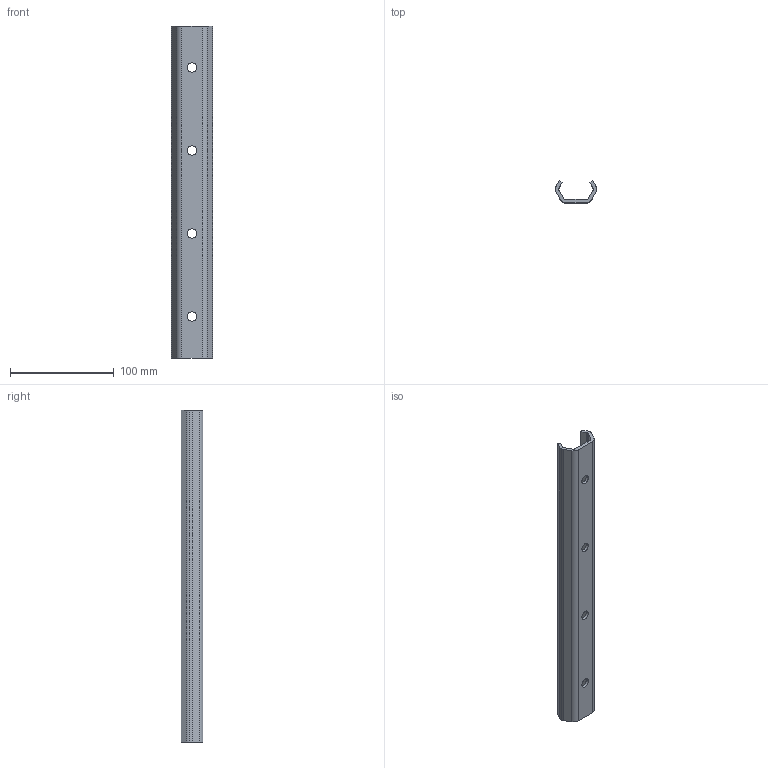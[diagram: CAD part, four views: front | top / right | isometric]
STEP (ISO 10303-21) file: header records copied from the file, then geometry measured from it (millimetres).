
FILE_DESCRIPTION(('STEP AP214'),'1');
FILE_NAME('rail_tex40-320.stp','2019-03-08T08:32:53',('TraceParts'),('TraceParts S.A.'),'Spatial InterOp 3D',' ',' ');
FILE_SCHEMA(('automotive_design'));
Length unit declared in the file: millimetre
Products named in the file (1): rail_tex40-320
Bounding box: 39.53 x 21 x 320 mm (x, y, z)
Volume: 62566.8 mm3; surface area: 44418.8 mm2
Topology: 1 solids, 1 shells, 91 faces, 240 edges, 160 vertices
Faces by surface type: plane 60, cylinder 20, bspline 11
Entity records: 5253 total; most frequent: CARTESIAN_POINT 2259, ORIENTED_EDGE 480, DIRECTION 420, EDGE_CURVE 240, LINE 178, VECTOR 178, VERTEX_POINT 160, AXIS2_PLACEMENT_3D 121
